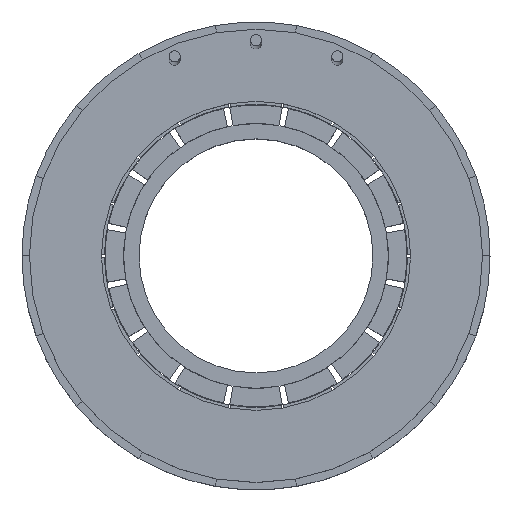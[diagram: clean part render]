
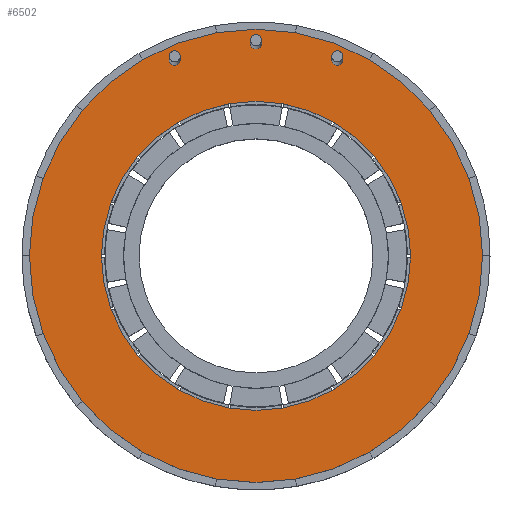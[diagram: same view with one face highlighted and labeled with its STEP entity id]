
A CAD part, top view. The second image highlights one B-rep face of the part: STEP entity #6502.
In plain terms, the highlighted planar face has unit normal (0, 0, 1).
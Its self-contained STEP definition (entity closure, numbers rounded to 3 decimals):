
#182 = VERTEX_POINT ( 'NONE', #13903 ) ;
#607 = DIRECTION ( 'NONE',  ( 1., 0., 0. ) ) ;
#765 = DIRECTION ( 'NONE',  ( 1., 0., 0. ) ) ;
#793 = VERTEX_POINT ( 'NONE', #8543 ) ;
#1123 = CARTESIAN_POINT ( 'NONE',  ( 21.156, -109.853, 292.613 ) ) ;
#1381 = AXIS2_PLACEMENT_3D ( 'NONE', #13904, #2320, #12873 ) ;
#1555 = VERTEX_POINT ( 'NONE', #9111 ) ;
#1770 = EDGE_CURVE ( 'NONE', #4997, #12185, #13640, .T. ) ;
#1865 = EDGE_CURVE ( 'NONE', #793, #4262, #5983, .T. ) ;
#2320 = DIRECTION ( 'NONE',  ( 0., 0., 1. ) ) ;
#2422 = DIRECTION ( 'NONE',  ( 0., 0., 1. ) ) ;
#2459 = AXIS2_PLACEMENT_3D ( 'NONE', #11462, #15307, #765 ) ;
#2585 = CARTESIAN_POINT ( 'NONE',  ( 34.358, -77.979, 292.613 ) ) ;
#2666 = AXIS2_PLACEMENT_3D ( 'NONE', #14673, #13401, #12295 ) ;
#3202 = FACE_OUTER_BOUND ( 'NONE', #10865, .T. ) ;
#3591 = CARTESIAN_POINT ( 'NONE',  ( 57.956, -109.853, 292.613 ) ) ;
#3602 = DIRECTION ( 'NONE',  ( 0., 0., 1. ) ) ;
#3883 = DIRECTION ( 'NONE',  ( 0., 0., 1. ) ) ;
#4056 = EDGE_CURVE ( 'NONE', #182, #7427, #5751, .T. ) ;
#4262 = VERTEX_POINT ( 'NONE', #4428 ) ;
#4428 = CARTESIAN_POINT ( 'NONE',  ( 46.256, -109.853, 292.613 ) ) ;
#4439 = CIRCLE ( 'NONE', #12393, 36.8 ) ;
#4616 = AXIS2_PLACEMENT_3D ( 'NONE', #8850, #3602, #7307 ) ;
#4943 = AXIS2_PLACEMENT_3D ( 'NONE', #6149, #11299, #14113 ) ;
#4997 = VERTEX_POINT ( 'NONE', #12117 ) ;
#5067 = ORIENTED_EDGE ( 'NONE', *, *, #14707, .T. ) ;
#5683 = FACE_BOUND ( 'NONE', #8122, .T. ) ;
#5751 = CIRCLE ( 'NONE', #1381, 0.905 ) ;
#5771 = ORIENTED_EDGE ( 'NONE', *, *, #4056, .F. ) ;
#5846 = VERTEX_POINT ( 'NONE', #11392 ) ;
#5983 = CIRCLE ( 'NONE', #10901, 25.1 ) ;
#6149 = CARTESIAN_POINT ( 'NONE',  ( 21.156, -75.353, 292.613 ) ) ;
#6198 = EDGE_LOOP ( 'NONE', ( #14174, #7897 ) ) ;
#6502 = ADVANCED_FACE ( 'NONE', ( #5683, #9565, #8533, #16302, #3202 ), #10828, .T. ) ;
#6692 = ORIENTED_EDGE ( 'NONE', *, *, #10156, .F. ) ;
#6801 = EDGE_CURVE ( 'NONE', #5846, #8998, #9815, .T. ) ;
#7307 = DIRECTION ( 'NONE',  ( 1., 0., 0. ) ) ;
#7427 = VERTEX_POINT ( 'NONE', #7441 ) ;
#7441 = CARTESIAN_POINT ( 'NONE',  ( 22.061, -75.353, 292.613 ) ) ;
#7641 = CIRCLE ( 'NONE', #4616, 25.1 ) ;
#7897 = ORIENTED_EDGE ( 'NONE', *, *, #9008, .F. ) ;
#8033 = CARTESIAN_POINT ( 'NONE',  ( 7.953, -77.979, 292.613 ) ) ;
#8084 = DIRECTION ( 'NONE',  ( 1., 0., 0. ) ) ;
#8122 = EDGE_LOOP ( 'NONE', ( #16017, #6692 ) ) ;
#8381 = EDGE_LOOP ( 'NONE', ( #16234, #11143 ) ) ;
#8533 = FACE_BOUND ( 'NONE', #12072, .T. ) ;
#8543 = CARTESIAN_POINT ( 'NONE',  ( -3.944, -109.853, 292.613 ) ) ;
#8850 = CARTESIAN_POINT ( 'NONE',  ( 21.156, -109.853, 292.613 ) ) ;
#8998 = VERTEX_POINT ( 'NONE', #13804 ) ;
#9008 = EDGE_CURVE ( 'NONE', #4262, #793, #7641, .T. ) ;
#9111 = CARTESIAN_POINT ( 'NONE',  ( 7.048, -77.979, 292.613 ) ) ;
#9204 = CARTESIAN_POINT ( 'NONE',  ( 34.358, -77.979, 292.613 ) ) ;
#9565 = FACE_BOUND ( 'NONE', #8381, .T. ) ;
#9672 = EDGE_CURVE ( 'NONE', #8998, #5846, #13127, .T. ) ;
#9815 = CIRCLE ( 'NONE', #14180, 0.905 ) ;
#9860 = CIRCLE ( 'NONE', #2459, 0.905 ) ;
#10037 = CARTESIAN_POINT ( 'NONE',  ( 21.156, -109.853, 292.613 ) ) ;
#10156 = EDGE_CURVE ( 'NONE', #10271, #1555, #9860, .T. ) ;
#10168 = EDGE_CURVE ( 'NONE', #7427, #182, #13702, .T. ) ;
#10206 = CARTESIAN_POINT ( 'NONE',  ( 21.156, -109.853, 292.613 ) ) ;
#10271 = VERTEX_POINT ( 'NONE', #15877 ) ;
#10828 = PLANE ( 'NONE',  #2666 ) ;
#10865 = EDGE_LOOP ( 'NONE', ( #14253, #5067 ) ) ;
#10901 = AXIS2_PLACEMENT_3D ( 'NONE', #1123, #15575, #11564 ) ;
#11143 = ORIENTED_EDGE ( 'NONE', *, *, #6801, .F. ) ;
#11299 = DIRECTION ( 'NONE',  ( 0., 0., 1. ) ) ;
#11392 = CARTESIAN_POINT ( 'NONE',  ( 35.263, -77.979, 292.613 ) ) ;
#11462 = CARTESIAN_POINT ( 'NONE',  ( 7.953, -77.979, 292.613 ) ) ;
#11564 = DIRECTION ( 'NONE',  ( 1., 0., 0. ) ) ;
#11671 = DIRECTION ( 'NONE',  ( 1., 0., 0. ) ) ;
#12072 = EDGE_LOOP ( 'NONE', ( #5771, #14042 ) ) ;
#12117 = CARTESIAN_POINT ( 'NONE',  ( -15.644, -109.853, 292.613 ) ) ;
#12185 = VERTEX_POINT ( 'NONE', #3591 ) ;
#12295 = DIRECTION ( 'NONE',  ( 1., 0., 0. ) ) ;
#12393 = AXIS2_PLACEMENT_3D ( 'NONE', #10206, #12859, #15405 ) ;
#12601 = DIRECTION ( 'NONE',  ( 0., 0., 1. ) ) ;
#12859 = DIRECTION ( 'NONE',  ( 0., 0., 1. ) ) ;
#12873 = DIRECTION ( 'NONE',  ( 1., 0., 0. ) ) ;
#13127 = CIRCLE ( 'NONE', #13951, 0.905 ) ;
#13161 = DIRECTION ( 'NONE',  ( 0., 0., 1. ) ) ;
#13241 = DIRECTION ( 'NONE',  ( 1., 0., 0. ) ) ;
#13257 = CIRCLE ( 'NONE', #16549, 0.905 ) ;
#13401 = DIRECTION ( 'NONE',  ( 0., 0., 1. ) ) ;
#13640 = CIRCLE ( 'NONE', #14188, 36.8 ) ;
#13702 = CIRCLE ( 'NONE', #4943, 0.905 ) ;
#13804 = CARTESIAN_POINT ( 'NONE',  ( 33.453, -77.979, 292.613 ) ) ;
#13903 = CARTESIAN_POINT ( 'NONE',  ( 20.251, -75.353, 292.613 ) ) ;
#13904 = CARTESIAN_POINT ( 'NONE',  ( 21.156, -75.353, 292.613 ) ) ;
#13951 = AXIS2_PLACEMENT_3D ( 'NONE', #9204, #2422, #11671 ) ;
#13973 = EDGE_CURVE ( 'NONE', #1555, #10271, #13257, .T. ) ;
#14042 = ORIENTED_EDGE ( 'NONE', *, *, #10168, .F. ) ;
#14113 = DIRECTION ( 'NONE',  ( 1., 0., 0. ) ) ;
#14174 = ORIENTED_EDGE ( 'NONE', *, *, #1865, .F. ) ;
#14180 = AXIS2_PLACEMENT_3D ( 'NONE', #2585, #3883, #8084 ) ;
#14188 = AXIS2_PLACEMENT_3D ( 'NONE', #10037, #12601, #607 ) ;
#14253 = ORIENTED_EDGE ( 'NONE', *, *, #1770, .T. ) ;
#14673 = CARTESIAN_POINT ( 'NONE',  ( 21.156, -109.853, 292.613 ) ) ;
#14707 = EDGE_CURVE ( 'NONE', #12185, #4997, #4439, .T. ) ;
#15307 = DIRECTION ( 'NONE',  ( 0., 0., 1. ) ) ;
#15405 = DIRECTION ( 'NONE',  ( 1., 0., 0. ) ) ;
#15575 = DIRECTION ( 'NONE',  ( 0., 0., 1. ) ) ;
#15877 = CARTESIAN_POINT ( 'NONE',  ( 8.858, -77.979, 292.613 ) ) ;
#16017 = ORIENTED_EDGE ( 'NONE', *, *, #13973, .F. ) ;
#16234 = ORIENTED_EDGE ( 'NONE', *, *, #9672, .F. ) ;
#16302 = FACE_BOUND ( 'NONE', #6198, .T. ) ;
#16549 = AXIS2_PLACEMENT_3D ( 'NONE', #8033, #13161, #13241 ) ;
